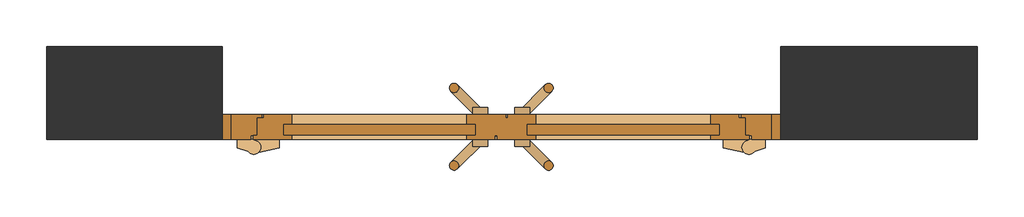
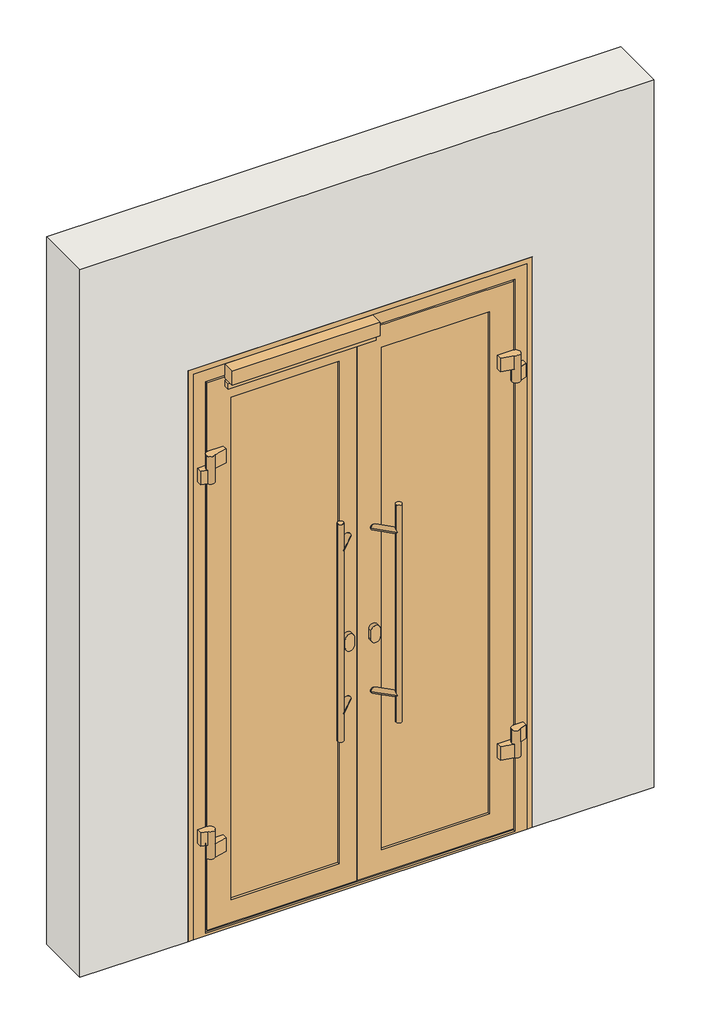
# One storey: 2 doors, 1 wall.
"""IFC4 building model written with IfcOpenShell, lengths in millimetres."""

from ifc_helpers import new_model, si_unit, frame, origin, place, context, project, spatial, polyline, outline, extrude, transform, mapped, element, save
from components import door_1e8aae34, door_67dd0984

model = new_model("IFC4")

# Units and contexts
model_context = context("Model", 3, world=origin())
ifc_project = project(units=[si_unit("LENGTHUNIT", "METRE", prefix="MILLI")], contexts=[model_context])

# Site, building, storey
site = spatial("IfcSite", under=ifc_project)
building = spatial("IfcBuilding", under=site)
storey = spatial("IfcBuildingStorey", under=building, Name="Этаж 01", Elevation=0.0)

# Doors
placement = place(None, origin())
door_shape = door_1e8aae34(model_context)
element("IfcDoor", 1, ObjectType="Дверь.Alumark_двупольная_S54 : 1160х2080 Открывание наружу (СП 24мм Обычный)", at=placement, inside=storey, context=model_context, shape_type="MappedRepresentation", body=[
    mapped(door_shape, transform((1102.1006224, -100.0, 0.0), x_axis=(-1.0, 0.0, 0.0), y_axis=(0.0, -1.0, 0.0), z_axis=(0.0, 0.0, 1.0))),
])
door_2_shape = door_67dd0984(model_context)
element("IfcDoor", 2, ObjectType="Alumark_фурнитура двупольной двери S54 : Alumark_фурнитура двупольной двери S54", at=placement, inside=storey, context=model_context, shape_type="MappedRepresentation", body=[
    mapped(door_2_shape, transform((397.1006224, -200.0, 0.0), x_axis=(-1.0, 0.0, 0.0), y_axis=(0.0, -1.0, 0.0), z_axis=(0.0, 0.0, 1.0))),
])

# Wall
element("IfcWall", 3, ObjectType="Типовой - 200мм", at=placement, inside=storey, context=model_context, shape_type="SweptSolid", body=[
    extrude(outline(polyline([(0.0, 2000.0), (2603.1870462, 2000.0), (2603.1870462, 0.0), (0.0, 0.0), (0.0, 377.1006224), (2100.0, 377.1006224), (2100.0, 1577.1006224), (0.0, 1577.1006224), (0.0, 2000.0)])), frame((0.0, -200.0, 0.0), z_axis=(0.0, 1.0, 0.0), x_axis=(0.0, 0.0, 1.0)), (0.0, 0.0, 1.0), 200.0),
])

save(model, "model.ifc")
